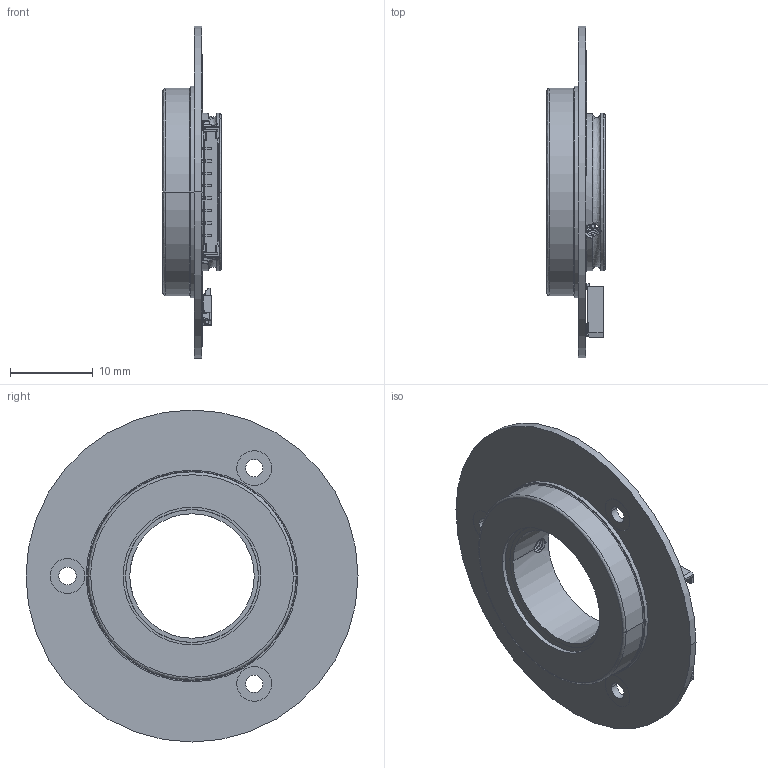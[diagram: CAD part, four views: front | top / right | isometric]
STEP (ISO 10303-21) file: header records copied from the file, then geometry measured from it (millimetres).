
FILE_DESCRIPTION (( 'STEP AP214' ), '1' );
FILE_NAME ('MBS-15-40¸üÐÂ.STEP', '2024-07-15T07:56:26', ( '' ), ( '' ), 'SwSTEP 2.0', 'SolidWorks 2016', '' );
FILE_SCHEMA (( 'AUTOMOTIVE_DESIGN' ));
Length unit declared in the file: millimetre
Products named in the file (1): MBS-15-40載陔
Bounding box: 7.01 x 40 x 40 mm (x, y, z)
Volume: 1817.7 mm3; surface area: 5097.9 mm2
Topology: 6 solids, 46 shells, 1373 faces, 3685 edges, 2412 vertices
Faces by surface type: plane 902, bspline 328, cylinder 137, cone 6
Entity records: 76497 total; most frequent: CARTESIAN_POINT 38277, ORIENTED_EDGE 7336, DIRECTION 5395, EDGE_CURVE 3668, VECTOR 2693, LINE 2693, VERTEX_POINT 2412, EDGE_LOOP 1450
